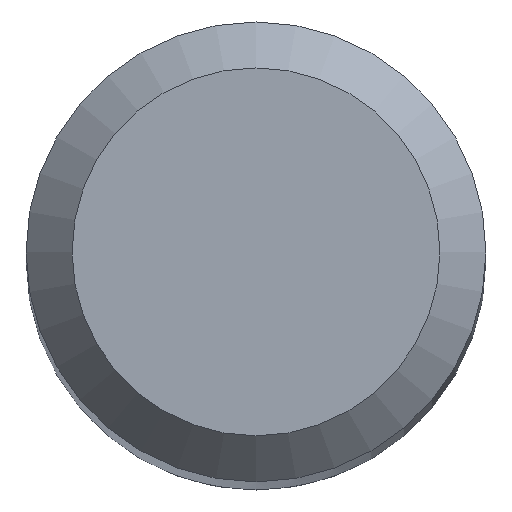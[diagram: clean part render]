
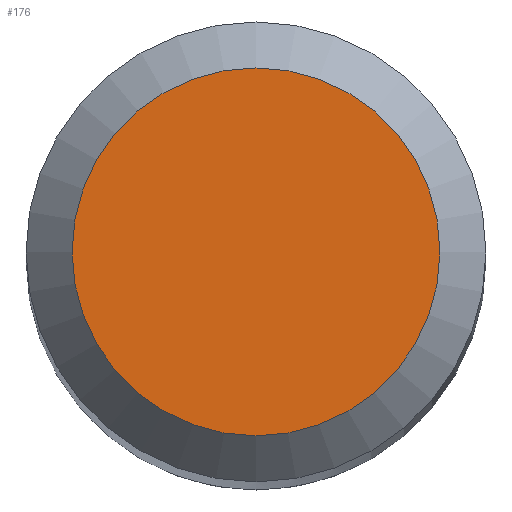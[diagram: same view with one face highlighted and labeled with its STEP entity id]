
A CAD part, top view. The second image highlights one B-rep face of the part: STEP entity #176.
In plain terms, the highlighted planar face has unit normal (0, 0, 1).
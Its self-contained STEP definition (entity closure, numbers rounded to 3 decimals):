
#21=PLANE('',#214);
#33=FACE_OUTER_BOUND('',#45,.T.);
#45=EDGE_LOOP('',(#135));
#70=CIRCLE('',#209,2.);
#81=VERTEX_POINT('',#290);
#98=EDGE_CURVE('',#81,#81,#70,.T.);
#135=ORIENTED_EDGE('',*,*,#98,.F.);
#176=ADVANCED_FACE('',(#33),#21,.T.);
#209=AXIS2_PLACEMENT_3D('',#291,#242,#243);
#214=AXIS2_PLACEMENT_3D('',#343,#254,#255);
#242=DIRECTION('center_axis',(0.,0.,-1.));
#243=DIRECTION('ref_axis',(-1.,0.,0.));
#254=DIRECTION('center_axis',(0.,0.,1.));
#255=DIRECTION('ref_axis',(1.,0.,0.));
#290=CARTESIAN_POINT('',(2.,0.,55.3));
#291=CARTESIAN_POINT('Origin',(0.,0.,55.3));
#343=CARTESIAN_POINT('Origin',(0.,0.,55.3));
